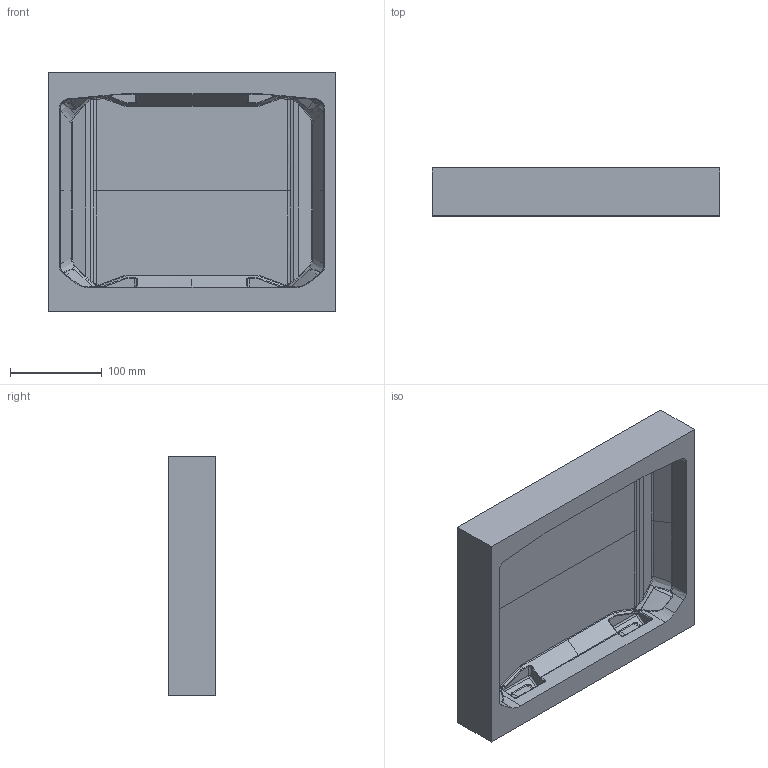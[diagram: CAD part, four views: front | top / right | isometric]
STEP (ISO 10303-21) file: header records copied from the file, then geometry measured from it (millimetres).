
FILE_DESCRIPTION (( 'STEP AP214' ), '1' );
FILE_NAME ('V100 PP TOP TUB 2-5-2024.STEP', '2024-02-12T03:56:42', ( '' ), ( '' ), 'SwSTEP 2.0', 'SolidWorks 2021', '' );
FILE_SCHEMA (( 'AUTOMOTIVE_DESIGN' ));
Length unit declared in the file: millimetre
Products named in the file (1): V100 PP TOP TUB 2-5-2024
Bounding box: 313.78 x 52.09 x 261.27 mm (x, y, z)
Volume: 1930171.3 mm3; surface area: 259251.4 mm2
Topology: 1 solids, 1 shells, 415 faces, 982 edges, 554 vertices
Faces by surface type: bspline 363, plane 52
Entity records: 16325 total; most frequent: CARTESIAN_POINT 10222, ORIENTED_EDGE 1932, EDGE_CURVE 966, VERTEX_POINT 554, B_SPLINE_CURVE_WITH_KNOTS 426, EDGE_LOOP 416, FACE_OUTER_BOUND 415, ADVANCED_FACE 415
